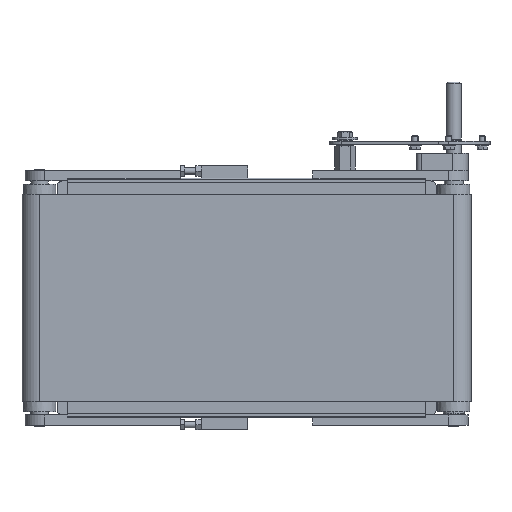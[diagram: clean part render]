
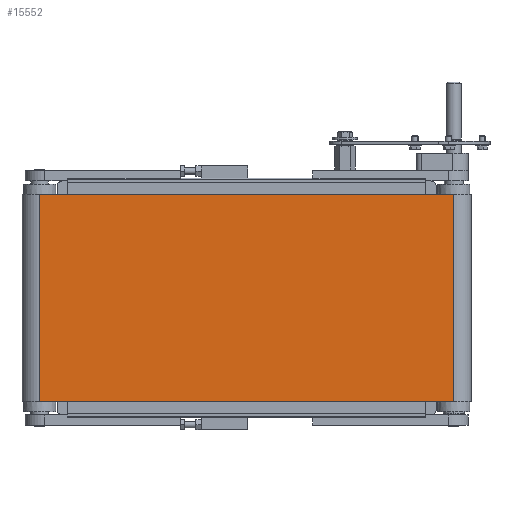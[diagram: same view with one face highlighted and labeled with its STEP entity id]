
A CAD part, front view. The second image highlights one B-rep face of the part: STEP entity #15552.
In plain terms, the highlighted planar face has unit normal (0, -1, 0).
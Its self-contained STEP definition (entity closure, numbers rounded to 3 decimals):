
#220 = VECTOR ( 'NONE', #17087, 1000. ) ;
#470 = CARTESIAN_POINT ( 'NONE',  ( 200., -17., -100. ) ) ;
#531 = ORIENTED_EDGE ( 'NONE', *, *, #17226, .F. ) ;
#1105 = CARTESIAN_POINT ( 'NONE',  ( 200., -17., 100. ) ) ;
#1407 = DIRECTION ( 'NONE',  ( 0., 1., 0. ) ) ;
#1873 = LINE ( 'NONE', #14497, #220 ) ;
#3670 = DIRECTION ( 'NONE',  ( 0., 0., -1. ) ) ;
#4483 = ORIENTED_EDGE ( 'NONE', *, *, #10412, .F. ) ;
#5721 = VERTEX_POINT ( 'NONE', #470 ) ;
#5898 = ORIENTED_EDGE ( 'NONE', *, *, #20636, .T. ) ;
#8300 = FACE_OUTER_BOUND ( 'NONE', #22838, .T. ) ;
#8817 = VECTOR ( 'NONE', #9971, 1000. ) ;
#9971 = DIRECTION ( 'NONE',  ( 1., 0., 0. ) ) ;
#10122 = DIRECTION ( 'NONE',  ( 0., 0., -1. ) ) ;
#10164 = PLANE ( 'NONE',  #10451 ) ;
#10412 = EDGE_CURVE ( 'NONE', #20075, #27440, #1873, .T. ) ;
#10451 = AXIS2_PLACEMENT_3D ( 'NONE', #23563, #1407, #17057 ) ;
#12979 = VECTOR ( 'NONE', #10122, 1000. ) ;
#13258 = VECTOR ( 'NONE', #3670, 1000. ) ;
#14497 = CARTESIAN_POINT ( 'NONE',  ( -200., -17., 100. ) ) ;
#14580 = LINE ( 'NONE', #23375, #12979 ) ;
#15330 = CARTESIAN_POINT ( 'NONE',  ( -200., -17., -100. ) ) ;
#15552 = ADVANCED_FACE ( 'NONE', ( #8300 ), #10164, .F. ) ;
#16718 = LINE ( 'NONE', #27545, #8817 ) ;
#17057 = DIRECTION ( 'NONE',  ( 0., 0., 1. ) ) ;
#17087 = DIRECTION ( 'NONE',  ( 1., 0., 0. ) ) ;
#17226 = EDGE_CURVE ( 'NONE', #27440, #5721, #20934, .T. ) ;
#17332 = CARTESIAN_POINT ( 'NONE',  ( 200., -17., 100. ) ) ;
#18325 = VERTEX_POINT ( 'NONE', #15330 ) ;
#20075 = VERTEX_POINT ( 'NONE', #23245 ) ;
#20636 = EDGE_CURVE ( 'NONE', #18325, #5721, #16718, .T. ) ;
#20819 = EDGE_CURVE ( 'NONE', #20075, #18325, #14580, .T. ) ;
#20934 = LINE ( 'NONE', #1105, #13258 ) ;
#22838 = EDGE_LOOP ( 'NONE', ( #5898, #531, #4483, #24504 ) ) ;
#23245 = CARTESIAN_POINT ( 'NONE',  ( -200., -17., 100. ) ) ;
#23375 = CARTESIAN_POINT ( 'NONE',  ( -200., -17., 100. ) ) ;
#23563 = CARTESIAN_POINT ( 'NONE',  ( -200., -17., 100. ) ) ;
#24504 = ORIENTED_EDGE ( 'NONE', *, *, #20819, .T. ) ;
#27440 = VERTEX_POINT ( 'NONE', #17332 ) ;
#27545 = CARTESIAN_POINT ( 'NONE',  ( -200., -17., -100. ) ) ;
